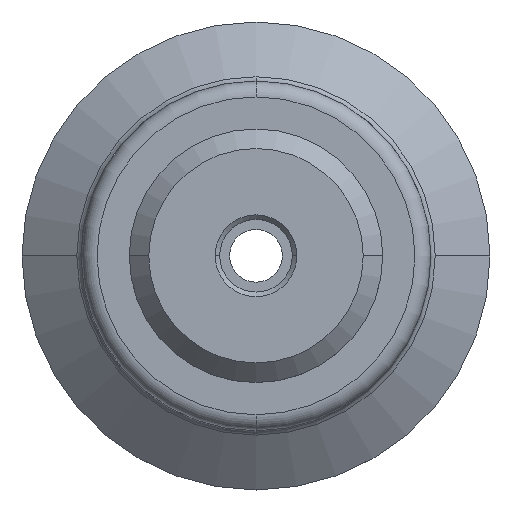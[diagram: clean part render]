
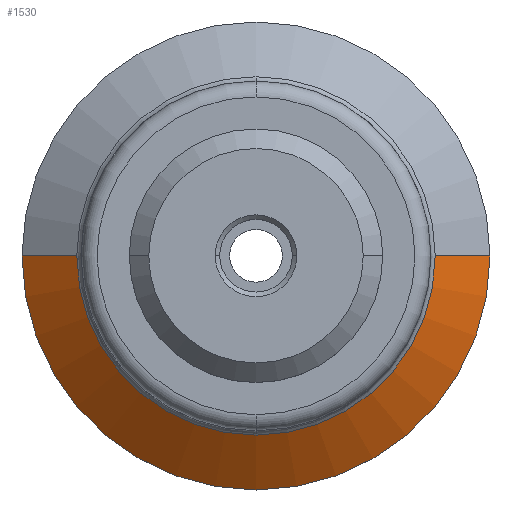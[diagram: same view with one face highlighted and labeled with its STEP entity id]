
A CAD part, top view. The second image highlights one B-rep face of the part: STEP entity #1530.
In plain terms, the highlighted conical face has half-angle 53 degrees and reference radius 52.972 mm.
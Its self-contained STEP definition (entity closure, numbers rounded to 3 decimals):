
#82 = DIRECTION ( 'NONE',  ( -0.799, 0., -0.602 ) ) ;
#133 = CARTESIAN_POINT ( 'NONE',  ( 45.945, 0., 11.592 ) ) ;
#148 = CONICAL_SURFACE ( 'NONE', #6572, 52.972, 0.925 ) ;
#170 = CARTESIAN_POINT ( 'NONE',  ( 0., 0., 11.592 ) ) ;
#528 = DIRECTION ( 'NONE',  ( 0., 0., -1. ) ) ;
#831 = DIRECTION ( 'NONE',  ( 1., 0., 0. ) ) ;
#949 = AXIS2_PLACEMENT_3D ( 'NONE', #1286, #5827, #1940 ) ;
#978 = FACE_OUTER_BOUND ( 'NONE', #1448, .T. ) ;
#999 = VERTEX_POINT ( 'NONE', #5655 ) ;
#1286 = CARTESIAN_POINT ( 'NONE',  ( 0., 0., 1. ) ) ;
#1294 = VECTOR ( 'NONE', #82, 1000. ) ;
#1327 = CARTESIAN_POINT ( 'NONE',  ( 52.972, 0., 6.296 ) ) ;
#1448 = EDGE_LOOP ( 'NONE', ( #4683, #2355, #8406, #6680, #4501 ) ) ;
#1530 = ADVANCED_FACE ( 'NONE', ( #978 ), #148, .T. ) ;
#1901 = DIRECTION ( 'NONE',  ( 1., 0., 0. ) ) ;
#1940 = DIRECTION ( 'NONE',  ( 1., 0., 0. ) ) ;
#2089 = LINE ( 'NONE', #1327, #3633 ) ;
#2355 = ORIENTED_EDGE ( 'NONE', *, *, #4269, .T. ) ;
#2437 = VERTEX_POINT ( 'NONE', #4710 ) ;
#2487 = CARTESIAN_POINT ( 'NONE',  ( 0., -45.945, 11.592 ) ) ;
#2703 = CARTESIAN_POINT ( 'NONE',  ( -52.972, 0., 6.296 ) ) ;
#3043 = LINE ( 'NONE', #2703, #1294 ) ;
#3633 = VECTOR ( 'NONE', #3939, 1000. ) ;
#3696 = CARTESIAN_POINT ( 'NONE',  ( 0., 0., 11.592 ) ) ;
#3830 = CARTESIAN_POINT ( 'NONE',  ( 0., 0., 6.296 ) ) ;
#3939 = DIRECTION ( 'NONE',  ( 0.799, 0., -0.602 ) ) ;
#4269 = EDGE_CURVE ( 'NONE', #999, #6866, #3043, .T. ) ;
#4338 = DIRECTION ( 'NONE',  ( 1., 0., 0. ) ) ;
#4501 = ORIENTED_EDGE ( 'NONE', *, *, #7637, .T. ) ;
#4669 = EDGE_CURVE ( 'NONE', #8340, #2437, #2089, .T. ) ;
#4683 = ORIENTED_EDGE ( 'NONE', *, *, #4824, .T. ) ;
#4710 = CARTESIAN_POINT ( 'NONE',  ( 60., 0., 1. ) ) ;
#4756 = DIRECTION ( 'NONE',  ( 0., 0., -1. ) ) ;
#4824 = EDGE_CURVE ( 'NONE', #6198, #999, #4847, .T. ) ;
#4847 = CIRCLE ( 'NONE', #5301, 45.945 ) ;
#5065 = AXIS2_PLACEMENT_3D ( 'NONE', #3696, #8234, #4338 ) ;
#5301 = AXIS2_PLACEMENT_3D ( 'NONE', #170, #4756, #831 ) ;
#5655 = CARTESIAN_POINT ( 'NONE',  ( -45.945, 0., 11.592 ) ) ;
#5678 = EDGE_CURVE ( 'NONE', #2437, #6866, #7582, .T. ) ;
#5827 = DIRECTION ( 'NONE',  ( 0., 0., -1. ) ) ;
#6198 = VERTEX_POINT ( 'NONE', #2487 ) ;
#6572 = AXIS2_PLACEMENT_3D ( 'NONE', #3830, #528, #1901 ) ;
#6680 = ORIENTED_EDGE ( 'NONE', *, *, #4669, .F. ) ;
#6866 = VERTEX_POINT ( 'NONE', #7196 ) ;
#7196 = CARTESIAN_POINT ( 'NONE',  ( -60., 0., 1. ) ) ;
#7364 = CIRCLE ( 'NONE', #5065, 45.945 ) ;
#7582 = CIRCLE ( 'NONE', #949, 60. ) ;
#7637 = EDGE_CURVE ( 'NONE', #8340, #6198, #7364, .T. ) ;
#8234 = DIRECTION ( 'NONE',  ( 0., 0., -1. ) ) ;
#8340 = VERTEX_POINT ( 'NONE', #133 ) ;
#8406 = ORIENTED_EDGE ( 'NONE', *, *, #5678, .F. ) ;
